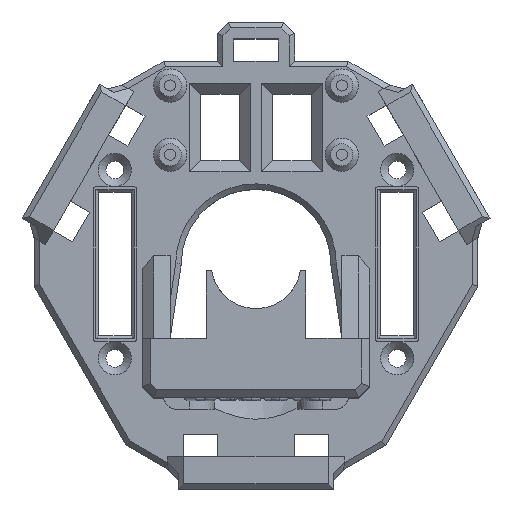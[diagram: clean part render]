
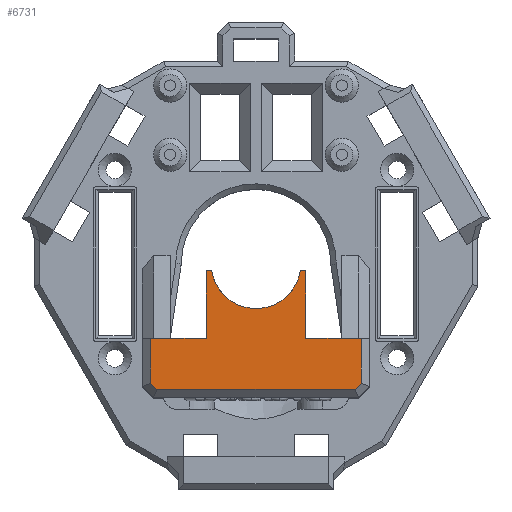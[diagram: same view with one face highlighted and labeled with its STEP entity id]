
A CAD part, top view. The second image highlights one B-rep face of the part: STEP entity #6731.
In plain terms, the highlighted planar face has unit normal (0, 0, 1).
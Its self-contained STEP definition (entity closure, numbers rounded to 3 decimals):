
#441=CIRCLE('',#7058,8.1);
#693=FACE_OUTER_BOUND('',#1095,.T.);
#1095=EDGE_LOOP('',(#5278,#5279,#5280,#5281,#5282,#5283,#5284,#5285,#5286,
#5287,#5288,#5289));
#1626=LINE('',#9820,#2333);
#1630=LINE('',#9828,#2337);
#1635=LINE('',#9888,#2342);
#1638=LINE('',#9893,#2345);
#1664=LINE('',#10162,#2371);
#1741=LINE('',#12166,#2448);
#1742=LINE('',#12168,#2449);
#1743=LINE('',#12170,#2450);
#1744=LINE('',#12172,#2451);
#1745=LINE('',#12174,#2452);
#1746=LINE('',#12175,#2453);
#2333=VECTOR('',#7904,10.);
#2337=VECTOR('',#7910,10.);
#2342=VECTOR('',#7931,10.);
#2345=VECTOR('',#7936,10.);
#2371=VECTOR('',#8000,10.);
#2448=VECTOR('',#8307,10.);
#2449=VECTOR('',#8308,10.);
#2450=VECTOR('',#8309,10.);
#2451=VECTOR('',#8310,10.);
#2452=VECTOR('',#8311,10.);
#2453=VECTOR('',#8312,10.);
#3027=VERTEX_POINT('',#9818);
#3028=VERTEX_POINT('',#9819);
#3031=VERTEX_POINT('',#9827);
#3038=VERTEX_POINT('',#9886);
#3039=VERTEX_POINT('',#9887);
#3040=VERTEX_POINT('',#9892);
#3079=VERTEX_POINT('',#10155);
#3204=VERTEX_POINT('',#12165);
#3205=VERTEX_POINT('',#12167);
#3206=VERTEX_POINT('',#12169);
#3207=VERTEX_POINT('',#12171);
#3208=VERTEX_POINT('',#12173);
#3731=EDGE_CURVE('',#3027,#3028,#1626,.T.);
#3735=EDGE_CURVE('',#3031,#3027,#1630,.T.);
#3747=EDGE_CURVE('',#3038,#3039,#1635,.T.);
#3750=EDGE_CURVE('',#3040,#3038,#1638,.T.);
#3752=EDGE_CURVE('',#3028,#3040,#441,.T.);
#3802=EDGE_CURVE('',#3039,#3079,#1664,.T.);
#4002=EDGE_CURVE('',#3079,#3204,#1741,.T.);
#4003=EDGE_CURVE('',#3205,#3031,#1742,.T.);
#4004=EDGE_CURVE('',#3206,#3205,#1743,.T.);
#4005=EDGE_CURVE('',#3207,#3206,#1744,.T.);
#4006=EDGE_CURVE('',#3208,#3207,#1745,.T.);
#4007=EDGE_CURVE('',#3204,#3208,#1746,.T.);
#5278=ORIENTED_EDGE('',*,*,#4002,.F.);
#5279=ORIENTED_EDGE('',*,*,#3802,.F.);
#5280=ORIENTED_EDGE('',*,*,#3747,.F.);
#5281=ORIENTED_EDGE('',*,*,#3750,.F.);
#5282=ORIENTED_EDGE('',*,*,#3752,.F.);
#5283=ORIENTED_EDGE('',*,*,#3731,.F.);
#5284=ORIENTED_EDGE('',*,*,#3735,.F.);
#5285=ORIENTED_EDGE('',*,*,#4003,.F.);
#5286=ORIENTED_EDGE('',*,*,#4004,.F.);
#5287=ORIENTED_EDGE('',*,*,#4005,.F.);
#5288=ORIENTED_EDGE('',*,*,#4006,.F.);
#5289=ORIENTED_EDGE('',*,*,#4007,.F.);
#6395=PLANE('',#7190);
#6731=ADVANCED_FACE('',(#693),#6395,.F.);
#7058=AXIS2_PLACEMENT_3D('',#9896,#7940,#7941);
#7190=AXIS2_PLACEMENT_3D('',#12164,#8305,#8306);
#7904=DIRECTION('',(1.,0.,0.));
#7910=DIRECTION('',(0.,1.,0.));
#7931=DIRECTION('',(0.,-1.,0.));
#7936=DIRECTION('',(1.,0.,0.));
#7940=DIRECTION('center_axis',(0.,0.,1.));
#7941=DIRECTION('ref_axis',(0.988,0.157,0.));
#8000=DIRECTION('',(1.,0.,0.));
#8305=DIRECTION('center_axis',(0.,0.,-1.));
#8306=DIRECTION('ref_axis',(-1.,0.,0.));
#8307=DIRECTION('',(0.,-1.,0.));
#8308=DIRECTION('',(1.,0.,0.));
#8309=DIRECTION('',(0.,1.,0.));
#8310=DIRECTION('',(-0.707,0.707,0.));
#8311=DIRECTION('',(-1.,0.,0.));
#8312=DIRECTION('',(-0.707,-0.707,0.));
#9818=CARTESIAN_POINT('',(-9.,-1.269,49.5));
#9819=CARTESIAN_POINT('',(-8.,-1.269,49.5));
#9820=CARTESIAN_POINT('',(-2.912,-1.269,49.5));
#9827=CARTESIAN_POINT('',(-9.,-13.5,49.5));
#9828=CARTESIAN_POINT('',(-9.,-11.351,49.5));
#9886=CARTESIAN_POINT('',(9.,-1.269,49.5));
#9887=CARTESIAN_POINT('',(9.,-13.5,49.5));
#9888=CARTESIAN_POINT('',(9.,-5.235,49.5));
#9892=CARTESIAN_POINT('',(8.,-1.269,49.5));
#9893=CARTESIAN_POINT('',(5.588,-1.269,49.5));
#9896=CARTESIAN_POINT('Origin',(0.,0.,49.5));
#10155=CARTESIAN_POINT('',(19.,-13.5,49.5));
#10162=CARTESIAN_POINT('',(-6.162,-13.5,49.5));
#12164=CARTESIAN_POINT('Origin',(3.177,-9.201,49.5));
#12165=CARTESIAN_POINT('',(19.,-21.579,49.5));
#12166=CARTESIAN_POINT('',(19.,-16.701,49.5));
#12167=CARTESIAN_POINT('',(-19.,-13.5,49.5));
#12168=CARTESIAN_POINT('',(-6.162,-13.5,49.5));
#12169=CARTESIAN_POINT('',(-19.,-21.579,49.5));
#12170=CARTESIAN_POINT('',(-19.,-11.351,49.5));
#12171=CARTESIAN_POINT('',(-17.879,-22.7,49.5));
#12172=CARTESIAN_POINT('',(-16.27,-24.309,49.5));
#12173=CARTESIAN_POINT('',(17.879,-22.7,49.5));
#12174=CARTESIAN_POINT('',(-8.662,-22.7,49.5));
#12175=CARTESIAN_POINT('',(17.858,-22.721,49.5));
